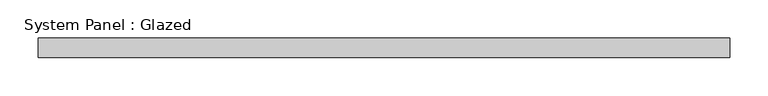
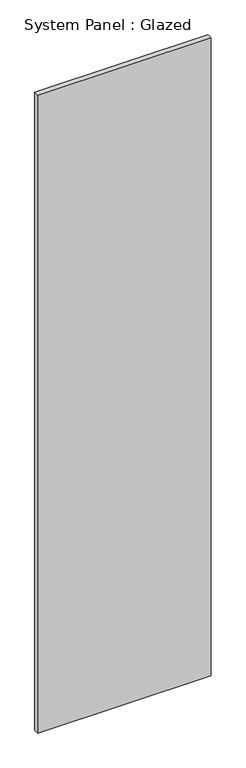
"""IFC4 building model written with IfcOpenShell, lengths in millimetres: plate geometry, System Panel : Glazed."""

import ifcopenshell
import ifcopenshell.guid

model = None  # the IFC model being written
_history = None  # IfcOwnerHistory: only IFC2X3 demands one
_inside = {}  # id of a spatial element -> (the spatial element, [elements in it])
_under = {}  # id of a project, library or spatial element -> (it, [spatial elements below it])
_declared = {}  # id of a project -> (the project, [libraries it declares])
_typed = {}  # id of a type object -> (the type object, [elements of that type])
_made_of = {}  # id of a material, layer set ... -> (it, [elements and type objects made of it])


def new_model(schema):
    """Start an empty IFC model of exactly this schema.

    Asked for "IFC4X3", IfcOpenShell would pick the latest addendum, in which some entities
    have other attributes; the version numbers below select the first issue.
    IFC2X3 requires an IfcOwnerHistory on every rooted entity: one is made here for all.
    """
    global model, _history
    if schema == "IFC4X3":
        model = ifcopenshell.file(schema_version=(4, 3, 0, 0))
    else:
        model = ifcopenshell.file(schema=schema)
    _inside.clear()
    _under.clear()
    _declared.clear()
    _typed.clear()
    _made_of.clear()
    _history = None
    if model.schema == "IFC2X3":
        org = make("IfcOrganization", Name="unknown")
        user = make(
            "IfcPersonAndOrganization",
            ThePerson=make("IfcPerson", FamilyName="unknown"),
            TheOrganization=org,
        )
        app = make(
            "IfcApplication",
            ApplicationDeveloper=org,
            Version="unknown",
            ApplicationFullName="unknown",
            ApplicationIdentifier="unknown",
        )
        _history = make(
            "IfcOwnerHistory",
            OwningUser=user,
            OwningApplication=app,
            ChangeAction="ADDED",
            CreationDate=0,
        )
    return model


def make(cls, **values):
    """One entity of the class cls with the attributes given. An attribute that is None is left unset."""
    return model.create_entity(
        cls, **{name: value for name, value in values.items() if value is not None}
    )


def rooted(cls, **values):
    """An entity with a GlobalId (a new one), such as an element, a storey or a relation."""
    return make(cls, GlobalId=ifcopenshell.guid.new(), OwnerHistory=_history, **values)


def si_unit(unit_type, name, prefix=None):
    """IfcSIUnit, for example si_unit("LENGTHUNIT", "METRE", prefix="MILLI")."""
    return make("IfcSIUnit", UnitType=unit_type, Prefix=prefix, Name=name)


def assignment(units):
    """IfcUnitAssignment: the units of a project."""
    return None if units is None else make("IfcUnitAssignment", Units=units)


def point(xyz):
    """IfcCartesianPoint."""
    return None if xyz is None else make("IfcCartesianPoint", Coordinates=xyz)


def direction(xyz):
    """IfcDirection."""
    return None if xyz is None else make("IfcDirection", DirectionRatios=xyz)


def frame(location, z_axis=None, x_axis=None):
    """IfcAxis2Placement3D, a coordinate frame: its origin and axes. An axis left out is left unset."""
    return make(
        "IfcAxis2Placement3D",
        Location=point(location),
        Axis=direction(z_axis),
        RefDirection=direction(x_axis),
    )


def origin():
    """The frame at (0, 0, 0) with its axes left unset."""
    return frame((0.0, 0.0, 0.0))


def origin_with_axes():
    """The frame at (0, 0, 0) with the z axis (0, 0, 1) and the x axis (1, 0, 0) written out."""
    return frame((0.0, 0.0, 0.0), z_axis=(0.0, 0.0, 1.0), x_axis=(1.0, 0.0, 0.0))


def place(relative_to, where):
    """IfcLocalPlacement: puts the frame where relative to a parent placement (None: the world)."""
    return make(
        "IfcLocalPlacement", PlacementRelTo=relative_to, RelativePlacement=where
    )


def context(
    kind, dimensions, precision=None, world=None, true_north=None, identifier=None
):
    """IfcGeometricRepresentationContext, for example the 3D "Model" context."""
    return make(
        "IfcGeometricRepresentationContext",
        ContextIdentifier=identifier,
        ContextType=kind,
        CoordinateSpaceDimension=dimensions,
        Precision=precision,
        WorldCoordinateSystem=world,
        TrueNorth=true_north,
    )


def project(units=None, contexts=None):
    """IfcProject with its units and contexts."""
    return rooted(
        "IfcProject",
        Name="project",
        RepresentationContexts=contexts,
        UnitsInContext=assignment(units),
    )


def spatial(cls, under=None, at=None, **own):
    """A site, building, storey or space (cls), placed at a placement, below another one or the project."""
    s = rooted(cls, ObjectPlacement=at, **own)
    if under is not None:
        _under.setdefault(under.id(), (under, []))[1].append(s)
    return s


def polyline(points):
    """IfcPolyline through the points."""
    return make("IfcPolyline", Points=[point(p) for p in points])


def outline(outer, holes=None, kind="AREA"):
    """IfcArbitraryClosedProfileDef: a profile drawn as a closed curve; with holes, ...WithVoids."""
    if holes is None:
        return make("IfcArbitraryClosedProfileDef", ProfileType=kind, OuterCurve=outer)
    return make(
        "IfcArbitraryProfileDefWithVoids",
        ProfileType=kind,
        OuterCurve=outer,
        InnerCurves=holes,
    )


def extrude(swept, where, along, depth):
    """IfcExtrudedAreaSolid: the profile swept, set in the frame where, extruded along a direction by depth."""
    return make(
        "IfcExtrudedAreaSolid",
        SweptArea=swept,
        Position=where,
        ExtrudedDirection=direction(along),
        Depth=depth,
    )


def shape(context_of_items, identifier, shape_type, items):
    """IfcShapeRepresentation: the items that make up one representation, for example the "Body"."""
    return make(
        "IfcShapeRepresentation",
        ContextOfItems=context_of_items,
        RepresentationIdentifier=identifier,
        RepresentationType=shape_type,
        Items=items,
    )


def source(mapping_origin, context_of_items, identifier, shape_type, items):
    """IfcRepresentationMap: a shape defined once, which mapped items show again and again."""
    return make(
        "IfcRepresentationMap",
        MappingOrigin=mapping_origin,
        MappedRepresentation=shape(context_of_items, identifier, shape_type, items),
    )


def transform(
    local_origin,
    x_axis=None,
    y_axis=None,
    z_axis=None,
    scale=None,
    scale2=None,
    scale3=None,
    uniform=True,
):
    """IfcCartesianTransformationOperator3D, or its non-uniform kind. x_axis, y_axis, z_axis: its Axis1, 2, 3."""
    if uniform:
        return make(
            "IfcCartesianTransformationOperator3D",
            Axis1=direction(x_axis),
            Axis2=direction(y_axis),
            LocalOrigin=point(local_origin),
            Scale=scale,
            Axis3=direction(z_axis),
        )
    return make(
        "IfcCartesianTransformationOperator3DnonUniform",
        Axis1=direction(x_axis),
        Axis2=direction(y_axis),
        LocalOrigin=point(local_origin),
        Scale=scale,
        Axis3=direction(z_axis),
        Scale2=scale2,
        Scale3=scale3,
    )


def mapped(mapping_source, mapping_target):
    """IfcMappedItem: shows the shape of a source again, moved by a transform."""
    return make(
        "IfcMappedItem", MappingSource=mapping_source, MappingTarget=mapping_target
    )


def made_of(thing, what):
    """Note that an element or type object is made of a material, layer set ...; save() writes the relation."""
    if what is not None:
        _made_of.setdefault(what.id(), (what, []))[1].append(thing)
    return thing


def element(
    cls,
    number,
    at=None,
    inside=None,
    cuts=None,
    type_object=None,
    material=None,
    context=None,
    identifier="Body",
    shape_type=None,
    held_by="IfcProductDefinitionShape",
    body=None,
    shapes=None,
    **own,
):
    """One element of the class cls, such as IfcWall. Its Tag is "e" and its number.

    at: its placement. inside: the storey or other place that contains it. cuts: it is an
    opening in that element (IfcRelVoidsElement). A single representation is given by context,
    identifier, shape_type and body (its items); several are given by shapes. held_by: the class
    of the entity that holds the representations. save() writes the other relations.
    """
    e = rooted(cls, Tag="e%d" % number, ObjectPlacement=at, **own)
    if body is not None:
        shapes = [shape(context, identifier, shape_type, body)]
    if shapes is not None:
        e.Representation = make(held_by, Representations=shapes)
    if inside is not None:
        _inside.setdefault(inside.id(), (inside, []))[1].append(e)
    if cuts is not None:
        rooted(
            "IfcRelVoidsElement", RelatingBuildingElement=cuts, RelatedOpeningElement=e
        )
    if type_object is not None:
        _typed.setdefault(type_object.id(), (type_object, []))[1].append(e)
    return made_of(e, material)


def aggregate(whole, parts):
    """IfcRelAggregates: a whole, such as a stair, and the parts it consists of."""
    return rooted("IfcRelAggregates", RelatingObject=whole, RelatedObjects=parts)


def save(model, path):
    """Write the relations noted so far, then the file.

    IfcRelAggregates (storeys below a building ...), IfcRelContainedInSpatialStructure (elements
    in a storey), IfcRelDefinesByType, IfcRelAssociatesMaterial and IfcRelDeclares: one each for
    every whole, place, type object, material and project.
    """
    for whole, parts in _under.values():
        aggregate(whole, parts)
    for where, things in _inside.values():
        rooted(
            "IfcRelContainedInSpatialStructure",
            RelatedElements=things,
            RelatingStructure=where,
        )
    for kind, things in _typed.values():
        rooted("IfcRelDefinesByType", RelatedObjects=things, RelatingType=kind)
    for what, things in _made_of.values():
        rooted("IfcRelAssociatesMaterial", RelatedObjects=things, RelatingMaterial=what)
    for by, libraries in _declared.values():
        rooted("IfcRelDeclares", RelatingContext=by, RelatedDefinitions=libraries)
    model.write(path)


def system_panel_glazed_a76a2e6a(model_context):
    return source(origin(), model_context, "Body", "SweptSolid", [
        extrude(outline(polyline([(449.9999998, 24.5), (-449.9999998, 24.5), (-449.9999998, 49.5), (449.9999998, 49.5), (449.9999998, 24.5)])), origin_with_axes(), (0.0, 0.0, 1.0), 3500.0),
    ])


if __name__ == "__main__":
    model = new_model("IFC4")
    model_context = context("Model", 3, world=origin())
    ifc_project = project(units=[si_unit("LENGTHUNIT", "METRE", prefix="MILLI")], contexts=[model_context])
    site = spatial("IfcSite", under=ifc_project)
    building = spatial("IfcBuilding", under=site)
    placement = place(None, origin())
    system_panel_glazed_shape = system_panel_glazed_a76a2e6a(model_context)
    element("IfcPlate", 1, ObjectType="System Panel : Glazed", at=placement, inside=building, context=model_context, shape_type="MappedRepresentation", body=[
        mapped(system_panel_glazed_shape, transform((0.0, 0.0, 0.0), x_axis=(1.0, 0.0, 0.0), y_axis=(0.0, 1.0, 0.0), z_axis=(0.0, 0.0, 1.0))),
    ])
    save(model, "model.ifc")
